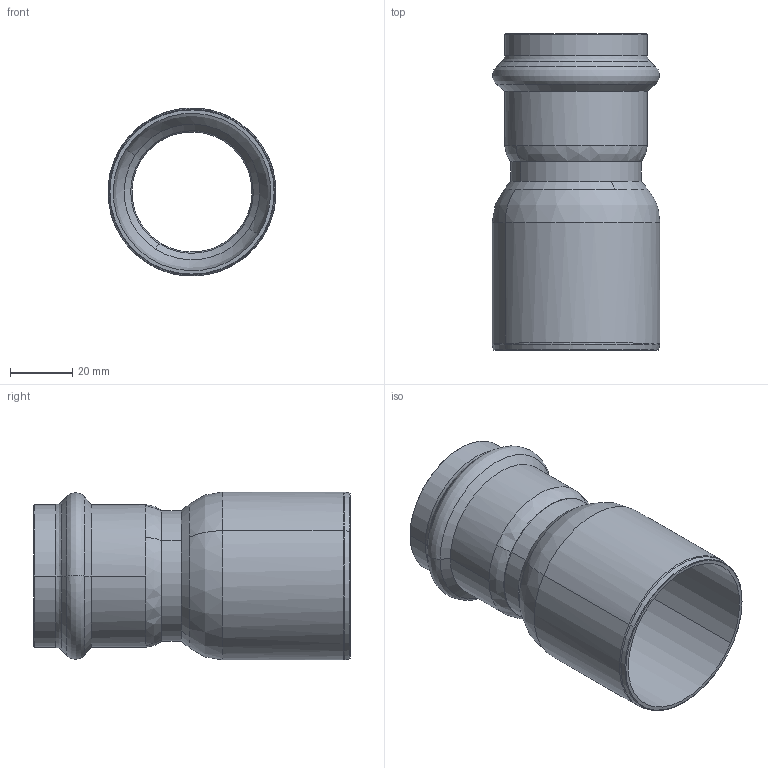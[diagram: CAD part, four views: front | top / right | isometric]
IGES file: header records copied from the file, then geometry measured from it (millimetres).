
Start section: Elysium IGES Interface
Global section: file name: C:\Users\Wallenburg\Desktop\3d modellen sudo\S-Pr VP\SP6243V\6243VW5442.igs; native system: CoCreate Modeling 17.00A  17-Jun-2010; preprocessor: CoCreate IGES_3D V2.2; author: Unknown; organization: Unknown; date: 20130124.094832; units: millimetre
Bounding box: 53.94 x 101.7 x 53.97 mm (x, y, z)
Volume: 30759.8 mm3; surface area: 32466.7 mm2
Topology: 1 solids, 1 shells, 64 faces, 156 edges, 92 vertices
Faces by surface type: bspline 64
